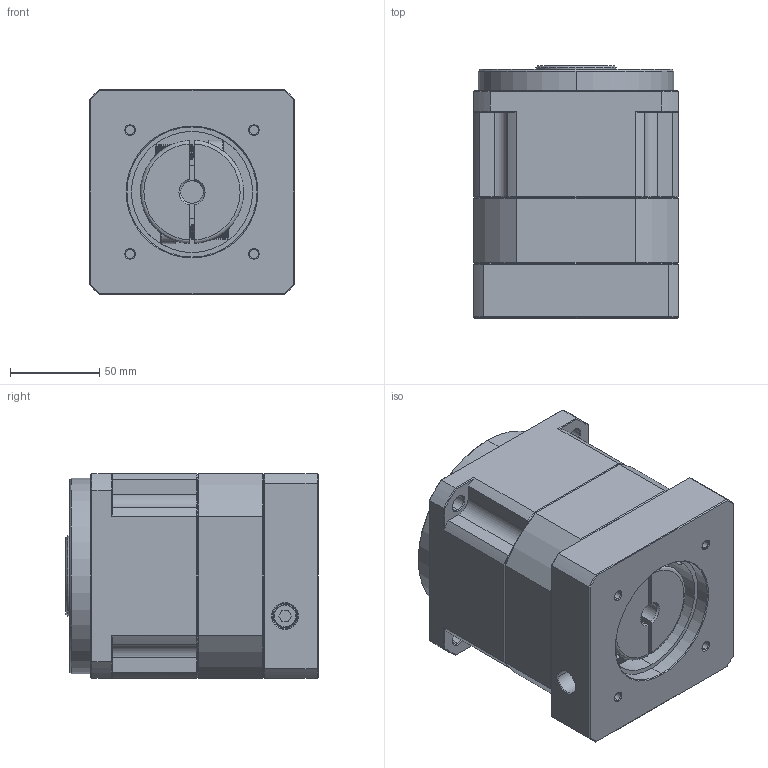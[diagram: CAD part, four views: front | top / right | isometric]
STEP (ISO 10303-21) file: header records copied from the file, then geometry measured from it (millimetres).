
FILE_DESCRIPTION (( 'STEP AP214' ), '1' );
FILE_NAME ('ZPB115-K32-L1-P1-12.7-73-69.6X69.6-M6.step', '2024-06-12T09:57:19', ( 'Windows 蚚誧' ), ( 'Organization' ), 'SwSTEP 2.0', 'SolidWorks 2016', '' );
FILE_SCHEMA (( 'AUTOMOTIVE_DESIGN' ));
Length unit declared in the file: millimetre
Products named in the file (1): ZPB115-K32-L1-P1-12.7-73-69.6X69.6-M6
Bounding box: 115 x 141.5 x 115 mm (x, y, z)
Surface area: 119648.4 mm2 (no closed solid volume)
Topology: 0 solids, 28 shells, 1763 faces, 4775 edges, 3074 vertices
Faces by surface type: plane 913, bspline 374, cone 260, cylinder 216
Entity records: 85397 total; most frequent: CARTESIAN_POINT 37673, ORIENTED_EDGE 9548, DIRECTION 7308, EDGE_CURVE 4775, LINE 3126, VECTOR 3126, VERTEX_POINT 3074, AXIS2_PLACEMENT_3D 2091
